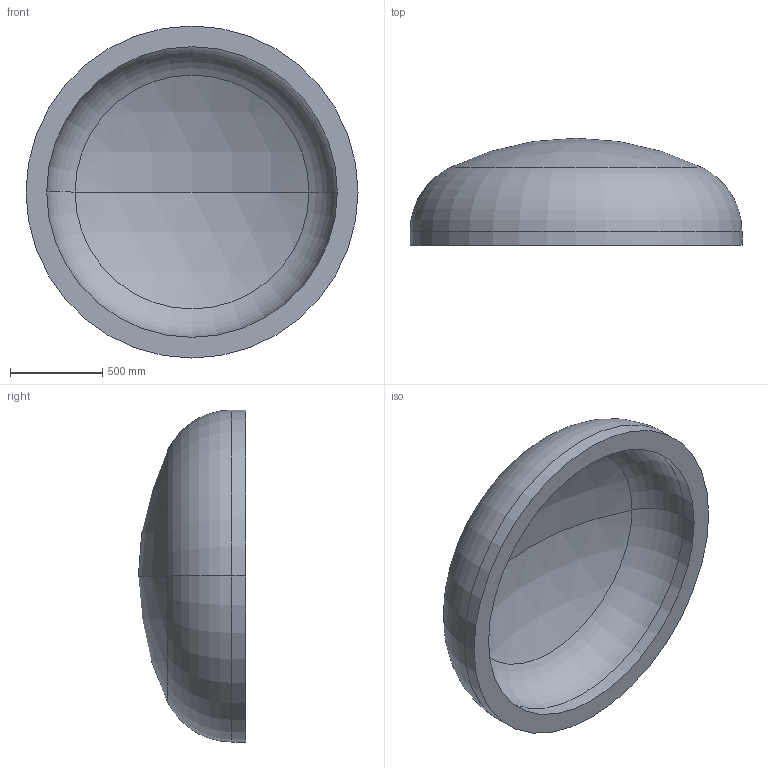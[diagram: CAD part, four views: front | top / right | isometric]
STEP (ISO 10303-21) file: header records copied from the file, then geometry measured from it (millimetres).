
FILE_DESCRIPTION (( 'STEP AP203' ), '1' );
FILE_NAME ('DIN 28013 Korbbogenform_-_Boden DIN 28013 - 1800 x 75 - I - s=112.step', '2016-07-01T12:47:58', ( '' ), ( '' ), 'SwSTEP 2.0', 'SolidWorks 2013', '' );
FILE_SCHEMA (( 'CONFIG_CONTROL_DESIGN' ));
Length unit declared in the file: millimetre
Products named in the file (1): DIN 28013 Korbbogenform_-_Boden DIN 28013 - 1800 x 75 - I - s=112
Bounding box: 1800 x 581.03 x 1800 mm (x, y, z)
Volume: 408627590.5 mm3; surface area: 7917128.4 mm2
Topology: 1 solids, 1 shells, 13 faces, 24 edges, 14 vertices
Faces by surface type: torus 4, cylinder 4, sphere 4, plane 1
Entity records: 407 total; most frequent: DIRECTION 72, CARTESIAN_POINT 52, ORIENTED_EDGE 48, AXIS2_PLACEMENT_3D 34, EDGE_CURVE 24, CIRCLE 20, VERTEX_POINT 14, EDGE_LOOP 14
